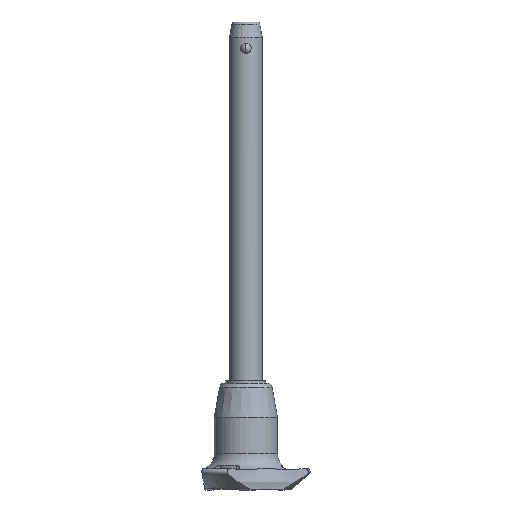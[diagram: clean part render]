
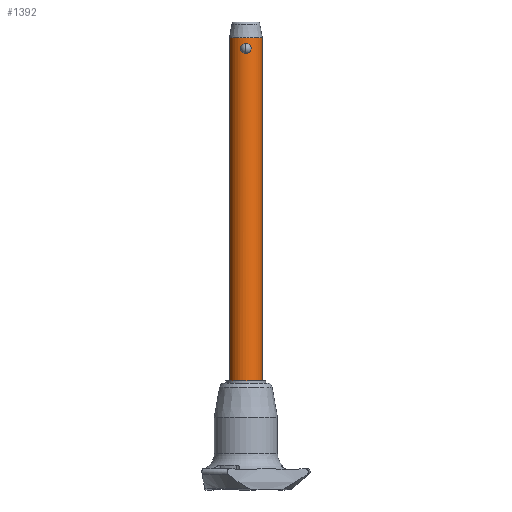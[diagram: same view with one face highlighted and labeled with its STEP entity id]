
A CAD part, front view. The second image highlights one B-rep face of the part: STEP entity #1392.
In plain terms, the highlighted cylindrical face has radius 5 mm (diameter 10 mm), a partial arc.
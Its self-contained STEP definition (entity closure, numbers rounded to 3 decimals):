
#57 = CARTESIAN_POINT ( 'NONE',  ( -1.594, -4.739, 1.312 ) ) ;
#64 = CARTESIAN_POINT ( 'NONE',  ( 0., 0., -100. ) ) ;
#65 = ORIENTED_EDGE ( 'NONE', *, *, #1553, .T. ) ;
#156 = CARTESIAN_POINT ( 'NONE',  ( 0., 0., 4.8 ) ) ;
#163 = CARTESIAN_POINT ( 'NONE',  ( 0.412, -4.987, 0.037 ) ) ;
#175 = CARTESIAN_POINT ( 'NONE',  ( -5., 0., -100. ) ) ;
#237 = CIRCLE ( 'NONE', #948, 5. ) ;
#239 = CARTESIAN_POINT ( 'NONE',  ( -0.412, -4.987, 2.997 ) ) ;
#254 = CARTESIAN_POINT ( 'NONE',  ( -1.383, -4.805, 2.299 ) ) ;
#273 = CARTESIAN_POINT ( 'NONE',  ( 0.412, -4.987, 2.996 ) ) ;
#292 = EDGE_CURVE ( 'NONE', #689, #1267, #1132, .T. ) ;
#326 = CARTESIAN_POINT ( 'NONE',  ( 1.196, -4.855, 0.493 ) ) ;
#360 = CARTESIAN_POINT ( 'NONE',  ( 1.604, -4.736, 1.619 ) ) ;
#450 = CARTESIAN_POINT ( 'NONE',  ( 0., 0., -100. ) ) ;
#463 = CARTESIAN_POINT ( 'NONE',  ( -1.394, -4.802, 0.731 ) ) ;
#495 = CARTESIAN_POINT ( 'NONE',  ( -0.965, -4.907, 2.738 ) ) ;
#508 = CARTESIAN_POINT ( 'NONE',  ( -1.047, -4.89, 0.357 ) ) ;
#565 = B_SPLINE_CURVE_WITH_KNOTS ( 'NONE', 3,
 ( #1094, #2371, #239, #1940, #1761, #495, #2618, #2175, #1734, #254, #1153, #713, #2420, #1117, #57, #2385, #1985, #463, #2432, #508, #1996, #932, #1530, #1963, #2409, #1569 ),
 .UNSPECIFIED., .F., .F.,
 ( 4, 2, 2, 2, 2, 2, 2, 2, 2, 2, 2, 2, 4 ),
 ( 0., 0.001, 0.001, 0.001, 0.002, 0.002, 0.002, 0.003, 0.003, 0.004, 0.004, 0.004, 0.005 ),
 .UNSPECIFIED. ) ;
#575 = CARTESIAN_POINT ( 'NONE',  ( 0.205, -5., 0. ) ) ;
#689 = VERTEX_POINT ( 'NONE', #1651 ) ;
#706 = VECTOR ( 'NONE', #1029, 1000. ) ;
#713 = CARTESIAN_POINT ( 'NONE',  ( -1.56, -4.751, 1.931 ) ) ;
#740 = CARTESIAN_POINT ( 'NONE',  ( 0.7, -4.952, 2.888 ) ) ;
#758 = CARTESIAN_POINT ( 'NONE',  ( 1.048, -4.889, 2.676 ) ) ;
#772 = CARTESIAN_POINT ( 'NONE',  ( 1.56, -4.751, 1.103 ) ) ;
#782 = CARTESIAN_POINT ( 'NONE',  ( 1.519, -4.764, 2.021 ) ) ;
#790 = DIRECTION ( 'NONE',  ( 1., 0., 0. ) ) ;
#833 = ORIENTED_EDGE ( 'NONE', *, *, #292, .F. ) ;
#847 = EDGE_CURVE ( 'NONE', #2422, #2585, #1905, .T. ) ;
#879 = CARTESIAN_POINT ( 'NONE',  ( 5., 0., -100. ) ) ;
#932 = CARTESIAN_POINT ( 'NONE',  ( -0.792, -4.938, 0.19 ) ) ;
#942 = AXIS2_PLACEMENT_3D ( 'NONE', #64, #2452, #1380 ) ;
#948 = AXIS2_PLACEMENT_3D ( 'NONE', #156, #2352, #790 ) ;
#963 = CYLINDRICAL_SURFACE ( 'NONE', #942, 5. ) ;
#973 = CARTESIAN_POINT ( 'NONE',  ( 1.594, -4.739, 1.721 ) ) ;
#1029 = DIRECTION ( 'NONE',  ( 0., 0., 1. ) ) ;
#1052 = ORIENTED_EDGE ( 'NONE', *, *, #1556, .F. ) ;
#1094 = CARTESIAN_POINT ( 'NONE',  ( 0., -5., 3.033 ) ) ;
#1103 = CARTESIAN_POINT ( 'NONE',  ( 0., -5., 3.033 ) ) ;
#1117 = CARTESIAN_POINT ( 'NONE',  ( -1.604, -4.736, 1.416 ) ) ;
#1123 = CARTESIAN_POINT ( 'NONE',  ( 0.208, -5., 3.033 ) ) ;
#1132 = B_SPLINE_CURVE_WITH_KNOTS ( 'NONE', 3,
 ( #2293, #575, #163, #2711, #2724, #2045, #1596, #326, #2257, #1612, #1837, #772, #1665, #360, #973, #1849, #782, #1176, #2688, #758, #1811, #1431, #740, #273, #1123, #2413 ),
 .UNSPECIFIED., .F., .F.,
 ( 4, 2, 2, 2, 2, 2, 2, 2, 2, 2, 2, 2, 4 ),
 ( 0.005, 0.006, 0.006, 0.006, 0.006, 0.007, 0.007, 0.008, 0.008, 0.009, 0.009, 0.009, 0.01 ),
 .UNSPECIFIED. ) ;
#1153 = CARTESIAN_POINT ( 'NONE',  ( -1.435, -4.79, 2.209 ) ) ;
#1163 = AXIS2_PLACEMENT_3D ( 'NONE', #450, #1465, #1300 ) ;
#1176 = CARTESIAN_POINT ( 'NONE',  ( 1.395, -4.802, 2.301 ) ) ;
#1237 = CARTESIAN_POINT ( 'NONE',  ( -5., 0., -100. ) ) ;
#1267 = VERTEX_POINT ( 'NONE', #1103 ) ;
#1300 = DIRECTION ( 'NONE',  ( 1., 0., 0. ) ) ;
#1313 = CARTESIAN_POINT ( 'NONE',  ( -5., 0., 4.8 ) ) ;
#1380 = DIRECTION ( 'NONE',  ( 1., 0., 0. ) ) ;
#1392 = ADVANCED_FACE ( 'NONE', ( #1788, #2625 ), #963, .T. ) ;
#1431 = CARTESIAN_POINT ( 'NONE',  ( 0.792, -4.938, 2.844 ) ) ;
#1449 = VERTEX_POINT ( 'NONE', #2314 ) ;
#1465 = DIRECTION ( 'NONE',  ( 0., 0., -1. ) ) ;
#1480 = EDGE_LOOP ( 'NONE', ( #1842, #833 ) ) ;
#1530 = CARTESIAN_POINT ( 'NONE',  ( -0.699, -4.952, 0.145 ) ) ;
#1553 = EDGE_CURVE ( 'NONE', #1449, #1875, #2374, .T. ) ;
#1556 = EDGE_CURVE ( 'NONE', #1449, #2422, #2104, .T. ) ;
#1569 = CARTESIAN_POINT ( 'NONE',  ( 0., -5., 0. ) ) ;
#1596 = CARTESIAN_POINT ( 'NONE',  ( 1.047, -4.89, 0.356 ) ) ;
#1612 = CARTESIAN_POINT ( 'NONE',  ( 1.384, -4.805, 0.735 ) ) ;
#1651 = CARTESIAN_POINT ( 'NONE',  ( 0., -5., 0. ) ) ;
#1665 = CARTESIAN_POINT ( 'NONE',  ( 1.604, -4.736, 1.308 ) ) ;
#1734 = CARTESIAN_POINT ( 'NONE',  ( -1.264, -4.838, 2.464 ) ) ;
#1761 = CARTESIAN_POINT ( 'NONE',  ( -0.791, -4.938, 2.844 ) ) ;
#1788 = FACE_OUTER_BOUND ( 'NONE', #2244, .T. ) ;
#1811 = CARTESIAN_POINT ( 'NONE',  ( 0.966, -4.907, 2.738 ) ) ;
#1837 = CARTESIAN_POINT ( 'NONE',  ( 1.434, -4.79, 0.822 ) ) ;
#1842 = ORIENTED_EDGE ( 'NONE', *, *, #2494, .F. ) ;
#1849 = CARTESIAN_POINT ( 'NONE',  ( 1.551, -4.753, 1.922 ) ) ;
#1862 = ORIENTED_EDGE ( 'NONE', *, *, #2168, .T. ) ;
#1875 = VERTEX_POINT ( 'NONE', #1981 ) ;
#1905 = LINE ( 'NONE', #175, #706 ) ;
#1940 = CARTESIAN_POINT ( 'NONE',  ( -0.7, -4.952, 2.888 ) ) ;
#1963 = CARTESIAN_POINT ( 'NONE',  ( -0.412, -4.987, 0.037 ) ) ;
#1981 = CARTESIAN_POINT ( 'NONE',  ( 5., 0., 4.8 ) ) ;
#1985 = CARTESIAN_POINT ( 'NONE',  ( -1.519, -4.764, 1.013 ) ) ;
#1996 = CARTESIAN_POINT ( 'NONE',  ( -0.966, -4.907, 0.296 ) ) ;
#2045 = CARTESIAN_POINT ( 'NONE',  ( 0.966, -4.907, 0.296 ) ) ;
#2104 = CIRCLE ( 'NONE', #1163, 5. ) ;
#2168 = EDGE_CURVE ( 'NONE', #1875, #2585, #237, .T. ) ;
#2175 = CARTESIAN_POINT ( 'NONE',  ( -1.197, -4.855, 2.539 ) ) ;
#2244 = EDGE_LOOP ( 'NONE', ( #2301, #1052, #65, #1862 ) ) ;
#2257 = CARTESIAN_POINT ( 'NONE',  ( 1.265, -4.838, 0.57 ) ) ;
#2293 = CARTESIAN_POINT ( 'NONE',  ( 0., -5., 0. ) ) ;
#2301 = ORIENTED_EDGE ( 'NONE', *, *, #847, .F. ) ;
#2314 = CARTESIAN_POINT ( 'NONE',  ( 5., 0., -100. ) ) ;
#2352 = DIRECTION ( 'NONE',  ( 0., 0., -1. ) ) ;
#2371 = CARTESIAN_POINT ( 'NONE',  ( -0.208, -5., 3.033 ) ) ;
#2374 = LINE ( 'NONE', #879, #2381 ) ;
#2381 = VECTOR ( 'NONE', #2536, 1000. ) ;
#2385 = CARTESIAN_POINT ( 'NONE',  ( -1.551, -4.753, 1.11 ) ) ;
#2409 = CARTESIAN_POINT ( 'NONE',  ( -0.205, -5., 0. ) ) ;
#2413 = CARTESIAN_POINT ( 'NONE',  ( 0., -5., 3.033 ) ) ;
#2420 = CARTESIAN_POINT ( 'NONE',  ( -1.604, -4.736, 1.724 ) ) ;
#2422 = VERTEX_POINT ( 'NONE', #1237 ) ;
#2432 = CARTESIAN_POINT ( 'NONE',  ( -1.272, -4.838, 0.564 ) ) ;
#2452 = DIRECTION ( 'NONE',  ( 0., 0., 1. ) ) ;
#2494 = EDGE_CURVE ( 'NONE', #1267, #689, #565, .T. ) ;
#2536 = DIRECTION ( 'NONE',  ( 0., 0., 1. ) ) ;
#2585 = VERTEX_POINT ( 'NONE', #1313 ) ;
#2618 = CARTESIAN_POINT ( 'NONE',  ( -1.047, -4.89, 2.676 ) ) ;
#2625 = FACE_BOUND ( 'NONE', #1480, .T. ) ;
#2688 = CARTESIAN_POINT ( 'NONE',  ( 1.272, -4.838, 2.47 ) ) ;
#2711 = CARTESIAN_POINT ( 'NONE',  ( 0.699, -4.952, 0.144 ) ) ;
#2724 = CARTESIAN_POINT ( 'NONE',  ( 0.792, -4.938, 0.19 ) ) ;
